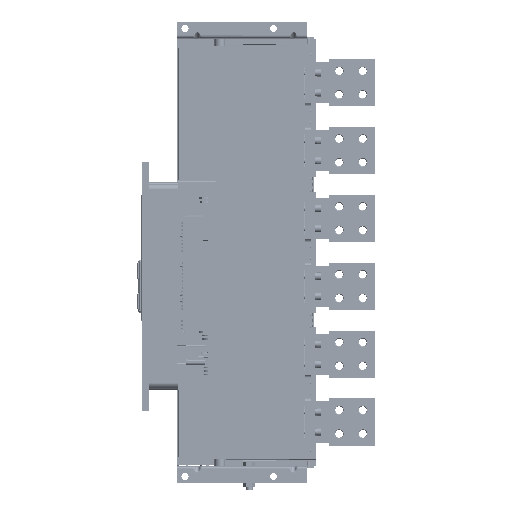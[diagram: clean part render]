
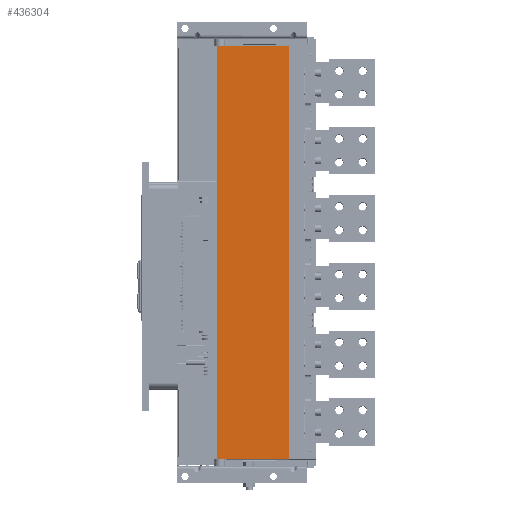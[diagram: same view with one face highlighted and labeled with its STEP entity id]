
A CAD part, front view. The second image highlights one B-rep face of the part: STEP entity #436304.
In plain terms, the highlighted planar face has unit normal (0, -1, 0).
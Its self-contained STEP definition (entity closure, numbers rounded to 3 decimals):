
#8579 = CARTESIAN_POINT ( 'NONE',  ( 123., 0., -482. ) ) ;
#41808 = EDGE_CURVE ( 'NONE', #443136, #59472, #50747, .T. ) ;
#50747 = LINE ( 'NONE', #193066, #113074 ) ;
#50820 = VERTEX_POINT ( 'NONE', #268247 ) ;
#59472 = VERTEX_POINT ( 'NONE', #8579 ) ;
#62131 = EDGE_CURVE ( 'NONE', #50820, #411557, #128734, .T. ) ;
#100229 = ORIENTED_EDGE ( 'NONE', *, *, #41808, .F. ) ;
#104464 = DIRECTION ( 'NONE',  ( 0., -1., 0. ) ) ;
#113074 = VECTOR ( 'NONE', #118421, 1000. ) ;
#116836 = VECTOR ( 'NONE', #299260, 1000. ) ;
#118421 = DIRECTION ( 'NONE',  ( 0., 0., -1. ) ) ;
#121646 = DIRECTION ( 'NONE',  ( 1., 0., 0. ) ) ;
#128734 = LINE ( 'NONE', #236132, #116836 ) ;
#155501 = ORIENTED_EDGE ( 'NONE', *, *, #395375, .T. ) ;
#193066 = CARTESIAN_POINT ( 'NONE',  ( 123., 0., 219. ) ) ;
#203577 = ORIENTED_EDGE ( 'NONE', *, *, #62131, .F. ) ;
#209525 = CARTESIAN_POINT ( 'NONE',  ( 0., 0., -474.5 ) ) ;
#221573 = VECTOR ( 'NONE', #121646, 1000. ) ;
#236132 = CARTESIAN_POINT ( 'NONE',  ( 0., 0., -482. ) ) ;
#268247 = CARTESIAN_POINT ( 'NONE',  ( 0., 0., -482. ) ) ;
#282800 = EDGE_LOOP ( 'NONE', ( #155501, #203577, #425121, #100229 ) ) ;
#288777 = PLANE ( 'NONE',  #423131 ) ;
#299260 = DIRECTION ( 'NONE',  ( 0., 0., 1. ) ) ;
#303679 = CARTESIAN_POINT ( 'NONE',  ( 0., 0., -482. ) ) ;
#316938 = FACE_OUTER_BOUND ( 'NONE', #282800, .T. ) ;
#348172 = VECTOR ( 'NONE', #352985, 1000. ) ;
#352985 = DIRECTION ( 'NONE',  ( -1., 0., 0. ) ) ;
#364394 = CARTESIAN_POINT ( 'NONE',  ( 123., 0., 219. ) ) ;
#386942 = DIRECTION ( 'NONE',  ( 0., 0., -1. ) ) ;
#390245 = CARTESIAN_POINT ( 'NONE',  ( 123., 0., 219. ) ) ;
#395375 = EDGE_CURVE ( 'NONE', #443136, #411557, #418344, .T. ) ;
#411557 = VERTEX_POINT ( 'NONE', #417129 ) ;
#417129 = CARTESIAN_POINT ( 'NONE',  ( 0., 0., 219. ) ) ;
#418344 = LINE ( 'NONE', #390245, #348172 ) ;
#423131 = AXIS2_PLACEMENT_3D ( 'NONE', #209525, #104464, #386942 ) ;
#425121 = ORIENTED_EDGE ( 'NONE', *, *, #435657, .T. ) ;
#435657 = EDGE_CURVE ( 'NONE', #50820, #59472, #441381, .T. ) ;
#436304 = ADVANCED_FACE ( 'NONE', ( #316938 ), #288777, .T. ) ;
#441381 = LINE ( 'NONE', #303679, #221573 ) ;
#443136 = VERTEX_POINT ( 'NONE', #364394 ) ;
